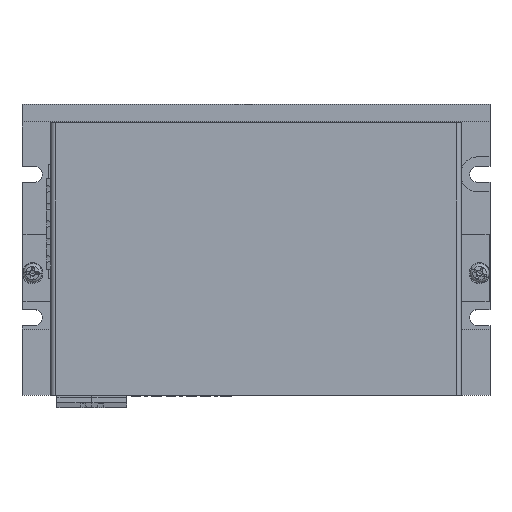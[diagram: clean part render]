
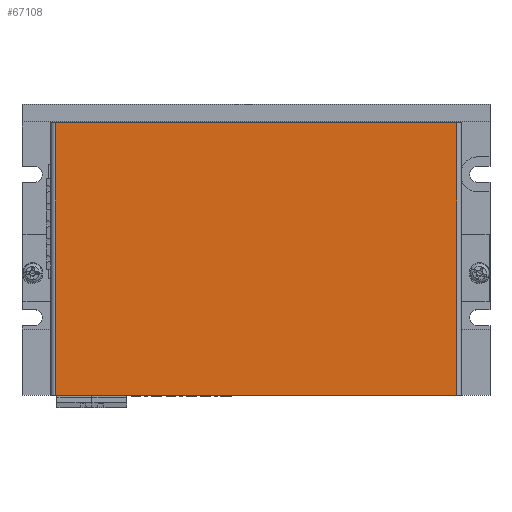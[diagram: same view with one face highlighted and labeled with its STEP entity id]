
A CAD part, top view. The second image highlights one B-rep face of the part: STEP entity #67108.
In plain terms, the highlighted planar face has unit normal (0, 0, 1).
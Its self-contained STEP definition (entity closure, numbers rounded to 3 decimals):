
#3677 = CARTESIAN_POINT ( 'NONE',  ( -116.3, 0., 0. ) ) ;
#11816 = DIRECTION ( 'NONE',  ( 0., -1., 0. ) ) ;
#19216 = CARTESIAN_POINT ( 'NONE',  ( -1.2, 0., 0. ) ) ;
#19288 = LINE ( 'NONE', #3677, #100770 ) ;
#20322 = EDGE_CURVE ( 'NONE', #69592, #28422, #91144, .T. ) ;
#26489 = CARTESIAN_POINT ( 'NONE',  ( 0., -78., 0. ) ) ;
#26770 = VERTEX_POINT ( 'NONE', #40441 ) ;
#27616 = CARTESIAN_POINT ( 'NONE',  ( 0., 0., 0. ) ) ;
#28422 = VERTEX_POINT ( 'NONE', #86481 ) ;
#28614 = LINE ( 'NONE', #19216, #45164 ) ;
#35814 = DIRECTION ( 'NONE',  ( 0., 0., 1. ) ) ;
#40441 = CARTESIAN_POINT ( 'NONE',  ( -1.2, 0., 0. ) ) ;
#40738 = ORIENTED_EDGE ( 'NONE', *, *, #20322, .F. ) ;
#45164 = VECTOR ( 'NONE', #84347, 1000. ) ;
#50751 = VERTEX_POINT ( 'NONE', #63566 ) ;
#62314 = ORIENTED_EDGE ( 'NONE', *, *, #69098, .T. ) ;
#63566 = CARTESIAN_POINT ( 'NONE',  ( -116.3, 0., 0. ) ) ;
#64832 = AXIS2_PLACEMENT_3D ( 'NONE', #27616, #35814, #92762 ) ;
#67108 = ADVANCED_FACE ( 'NONE', ( #83323 ), #76370, .T. ) ;
#69098 = EDGE_CURVE ( 'NONE', #26770, #50751, #102075, .T. ) ;
#69150 = CARTESIAN_POINT ( 'NONE',  ( 0., 0., 0. ) ) ;
#69592 = VERTEX_POINT ( 'NONE', #84733 ) ;
#72484 = ORIENTED_EDGE ( 'NONE', *, *, #74276, .T. ) ;
#74276 = EDGE_CURVE ( 'NONE', #50751, #28422, #19288, .T. ) ;
#74582 = VECTOR ( 'NONE', #75251, 1000. ) ;
#75251 = DIRECTION ( 'NONE',  ( -1., 0., 0. ) ) ;
#76370 = PLANE ( 'NONE',  #64832 ) ;
#79396 = ORIENTED_EDGE ( 'NONE', *, *, #80016, .T. ) ;
#80016 = EDGE_CURVE ( 'NONE', #69592, #26770, #28614, .T. ) ;
#80464 = VECTOR ( 'NONE', #101855, 1000. ) ;
#83323 = FACE_OUTER_BOUND ( 'NONE', #101471, .T. ) ;
#84347 = DIRECTION ( 'NONE',  ( 0., 1., 0. ) ) ;
#84733 = CARTESIAN_POINT ( 'NONE',  ( -1.2, -78., 0. ) ) ;
#86481 = CARTESIAN_POINT ( 'NONE',  ( -116.3, -78., 0. ) ) ;
#91144 = LINE ( 'NONE', #26489, #74582 ) ;
#92762 = DIRECTION ( 'NONE',  ( 1., 0., 0. ) ) ;
#100770 = VECTOR ( 'NONE', #11816, 1000. ) ;
#101471 = EDGE_LOOP ( 'NONE', ( #40738, #79396, #62314, #72484 ) ) ;
#101855 = DIRECTION ( 'NONE',  ( -1., 0., 0. ) ) ;
#102075 = LINE ( 'NONE', #69150, #80464 ) ;
